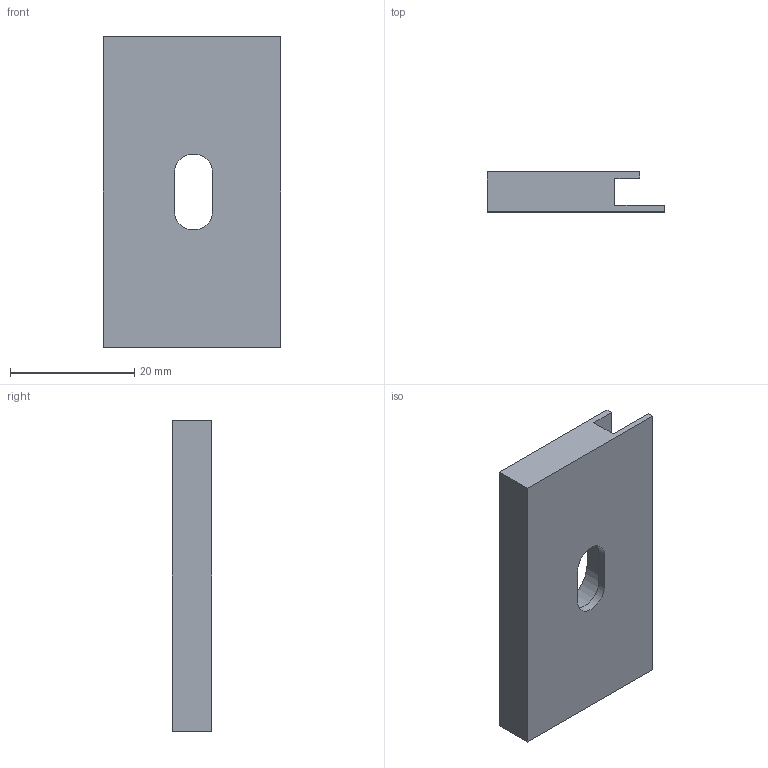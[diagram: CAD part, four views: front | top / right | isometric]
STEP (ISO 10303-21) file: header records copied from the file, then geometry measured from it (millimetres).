
FILE_DESCRIPTION((''),'2;1');
FILE_NAME('EAP-OT50_U-50','2023-06-06T16:39:05',('R&D'),(''),'CREO PARAMETRIC BY PTC INC, 2021063','CREO PARAMETRIC BY PTC INC, 2021063','');
FILE_SCHEMA(('CONFIG_CONTROL_DESIGN'));
Length unit declared in the file: millimetre
Products named in the file (1): EAP-OT50_U-50
Bounding box: 28.5 x 6.4 x 50 mm (x, y, z)
Volume: 6260.6 mm3; surface area: 4318.6 mm2
Topology: 1 solids, 1 shells, 19 faces, 48 edges, 32 vertices
Faces by surface type: plane 15, cylinder 4
Entity records: 612 total; most frequent: CARTESIAN_POINT 99, ORIENTED_EDGE 96, DIRECTION 94, EDGE_CURVE 48, VECTOR 40, LINE 40, VERTEX_POINT 32, AXIS2_PLACEMENT_3D 27
